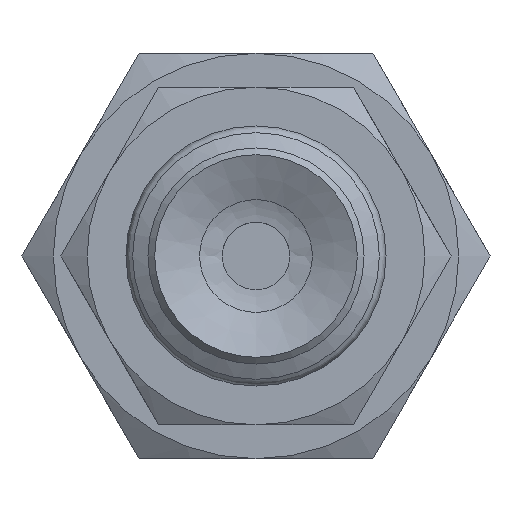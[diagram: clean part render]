
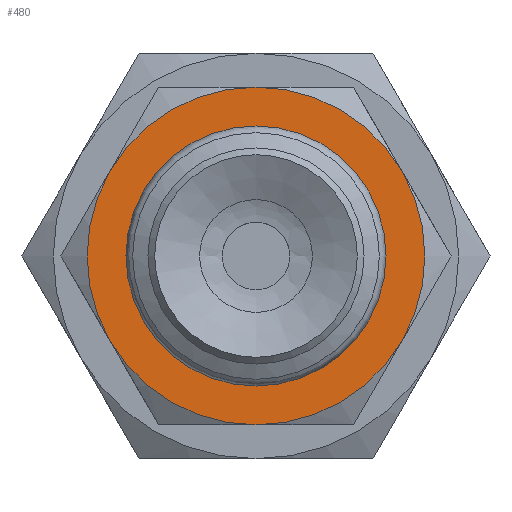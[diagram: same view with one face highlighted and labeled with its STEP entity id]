
A CAD part, front view. The second image highlights one B-rep face of the part: STEP entity #480.
In plain terms, the highlighted planar face has unit normal (0, -1, 0).
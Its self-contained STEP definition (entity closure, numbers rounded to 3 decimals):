
#480=ADVANCED_FACE('',(#706,#707),#708,.T.);
#706=FACE_BOUND('',#990,.T.);
#707=FACE_OUTER_BOUND('',#991,.T.);
#708=PLANE('',#992);
#990=EDGE_LOOP('',(#1688));
#991=EDGE_LOOP('',(#1689,#1690,#1691,#1692,#1693,#1694));
#992=AXIS2_PLACEMENT_3D('',#1695,#1696,#1697);
#1688=ORIENTED_EDGE('',*,*,#2039,.F.);
#1689=ORIENTED_EDGE('',*,*,#2046,.T.);
#1690=ORIENTED_EDGE('',*,*,#1989,.T.);
#1691=ORIENTED_EDGE('',*,*,#2044,.T.);
#1692=ORIENTED_EDGE('',*,*,#2052,.T.);
#1693=ORIENTED_EDGE('',*,*,#1973,.T.);
#1694=ORIENTED_EDGE('',*,*,#1987,.T.);
#1695=CARTESIAN_POINT('',(2.0,0.,0.0));
#1696=DIRECTION('',(0.0,-1.0,0.0));
#1697=DIRECTION('',(0.0,0.0,-1.0));
#1973=EDGE_CURVE('',#2234,#2248,#2250,.T.);
#1987=EDGE_CURVE('',#2248,#2272,#2275,.T.);
#1989=EDGE_CURVE('',#2277,#2265,#2278,.T.);
#2039=EDGE_CURVE('',#2363,#2363,#2364,.T.);
#2044=EDGE_CURVE('',#2265,#2251,#2372,.T.);
#2046=EDGE_CURVE('',#2272,#2277,#2374,.T.);
#2052=EDGE_CURVE('',#2251,#2234,#2383,.T.);
#2234=VERTEX_POINT('',#2870);
#2248=VERTEX_POINT('',#2896);
#2250=CIRCLE('',#2900,5.0);
#2251=VERTEX_POINT('',#2901);
#2265=VERTEX_POINT('',#2926);
#2272=VERTEX_POINT('',#2940);
#2275=CIRCLE('',#2945,5.0);
#2277=VERTEX_POINT('',#2949);
#2278=CIRCLE('',#2950,5.0);
#2363=VERTEX_POINT('',#3130);
#2364=CIRCLE('',#3131,2.0);
#2372=CIRCLE('',#3142,5.0);
#2374=CIRCLE('',#3144,5.0);
#2383=CIRCLE('',#3158,5.0);
#2870=CARTESIAN_POINT('',(-4.33,0.,2.5));
#2896=CARTESIAN_POINT('',(-4.33,0.0,-2.5));
#2900=AXIS2_PLACEMENT_3D('',#3335,#3336,#3337);
#2901=CARTESIAN_POINT('',(0.0,0.0,5.0));
#2926=CARTESIAN_POINT('',(4.33,0.0,2.5));
#2940=CARTESIAN_POINT('',(0.0,0.0,-5.0));
#2945=AXIS2_PLACEMENT_3D('',#3346,#3347,#3348);
#2949=CARTESIAN_POINT('',(4.33,0.0,-2.5));
#2950=AXIS2_PLACEMENT_3D('',#3349,#3350,#3351);
#3130=CARTESIAN_POINT('',(0.0,0.,-2.0));
#3131=AXIS2_PLACEMENT_3D('',#3418,#3419,#3420);
#3142=AXIS2_PLACEMENT_3D('',#3427,#3428,#3429);
#3144=AXIS2_PLACEMENT_3D('',#3433,#3434,#3435);
#3158=AXIS2_PLACEMENT_3D('',#3442,#3443,#3444);
#3335=CARTESIAN_POINT('',(0.0,0.,0.0));
#3336=DIRECTION('',(0.0,-1.0,0.0));
#3337=DIRECTION('',(0.0,0.0,-1.0));
#3346=CARTESIAN_POINT('',(0.0,0.,0.0));
#3347=DIRECTION('',(0.0,-1.0,0.0));
#3348=DIRECTION('',(0.0,0.0,-1.0));
#3349=CARTESIAN_POINT('',(0.0,0.,0.0));
#3350=DIRECTION('',(0.0,-1.0,0.0));
#3351=DIRECTION('',(0.0,0.0,-1.0));
#3418=CARTESIAN_POINT('',(0.0,0.,0.0));
#3419=DIRECTION('',(0.0,-1.0,0.0));
#3420=DIRECTION('',(0.0,0.0,-1.0));
#3427=CARTESIAN_POINT('',(0.0,0.,0.0));
#3428=DIRECTION('',(0.0,-1.0,0.0));
#3429=DIRECTION('',(0.0,0.0,-1.0));
#3433=CARTESIAN_POINT('',(0.0,0.,0.0));
#3434=DIRECTION('',(0.0,-1.0,0.0));
#3435=DIRECTION('',(0.0,0.0,-1.0));
#3442=CARTESIAN_POINT('',(0.0,0.,0.0));
#3443=DIRECTION('',(0.0,-1.0,0.0));
#3444=DIRECTION('',(0.0,0.0,-1.0));
